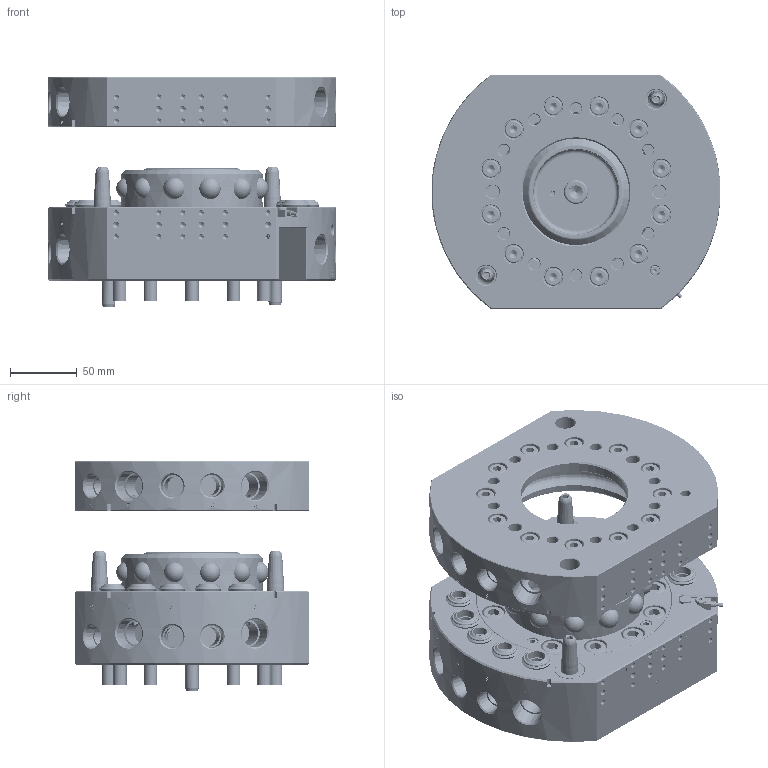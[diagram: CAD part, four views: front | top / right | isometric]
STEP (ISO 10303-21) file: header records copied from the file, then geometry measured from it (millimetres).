
FILE_DESCRIPTION(/* description */ (''),/* implementation_level */ '2;1');
FILE_NAME(/* name */ 'QCA-A-160装配.stp',/* time_stamp */ '2024-06-14T16:59:42+08:00',/* author */ (''),/* organization */ (''),/* preprocessor_version */ 'ST-DEVELOPER v16.7',/* originating_system */ 'SIEMENS PLM Software NX 12.0',/* authorisation */ '');
FILE_SCHEMA (('AUTOMOTIVE_DESIGN { 1 0 10303 214 3 1 1 1 }'));
Products named in the file (1): _model45
Bounding box: 216.86 x 176 x 172.54 mm (x, y, z)
Volume: 2634541.9 mm3; surface area: 408621.6 mm2
Topology: 2 solids, 50 shells, 2639 faces, 6222 edges, 3915 vertices
Faces by surface type: plane 1211, cylinder 561, cone 533, torus 163, extrusion 112, sphere 30, bspline 29
Full cylindrical faces by diameter (mm): 1 x6, 2.5 x13, 3 x24, 3.1 x1, 3.2 x9, 3.3 x49, 4 x31, 4.2 x7, 4.5 x1, 5 x6, 5.5 x10, 5.8 x2, 6.5 x4, 6.8 x14, 6.9 x2, 7 x3, 7.5 x1, 8 x15, 8.4 x12, 8.5 x14, 8.8 x2, 9.6 x5, 10 x26, 10.5 x15, 10.7 x10, 12 x6, 12.1 x4, 12.438 x2, 12.5 x13, 12.7 x5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
Entity records: 111327 total; most frequent: CARTESIAN_POINT 39253, DIRECTION 11172, ORIENTED_EDGE 9240, EDGE_CURVE 4620, AXIS2_PLACEMENT_3D 4502, EDGE_LOOP 4161, VERTEX_POINT 3529, FACE_BOUND 3009
